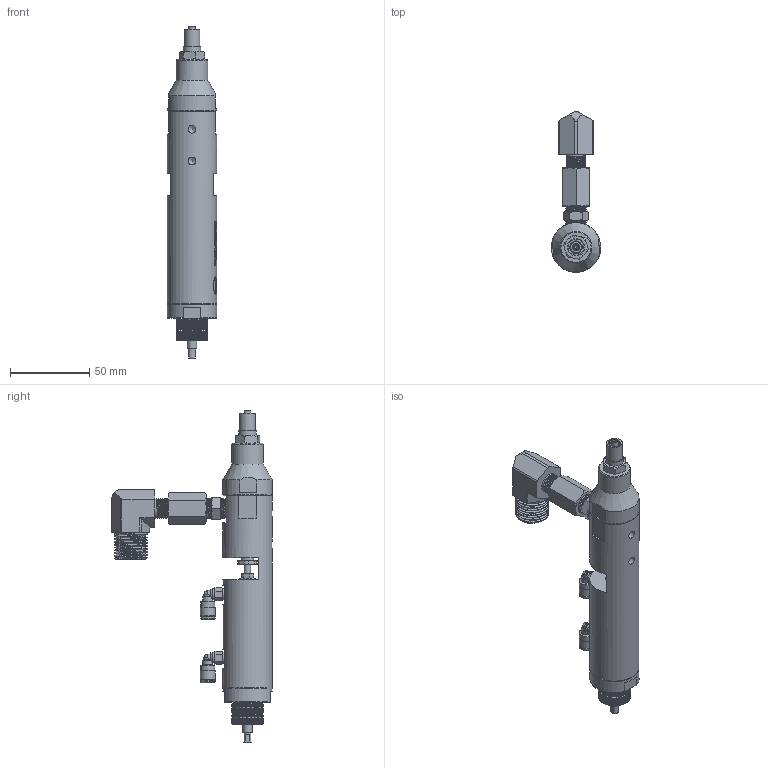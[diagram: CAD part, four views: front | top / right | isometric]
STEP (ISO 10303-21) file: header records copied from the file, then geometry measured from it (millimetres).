
FILE_DESCRIPTION(/* description */ (''),/* implementation_level */ '2;1');
FILE_NAME(/* name */ 'A:\1960414 EQ VA26 Dispense Valve 50 Bar.stp',/* time_stamp */ '2014-10-13T10:02:42-04:00',/* author */ ('patch'),/* organization */ (''),/* preprocessor_version */ 'ST-DEVELOPER v15.6',/* originating_system */ 'Autodesk Inventor 2015',/* authorisation */ '');
FILE_SCHEMA (('AUTOMOTIVE_DESIGN { 1 0 10303 214 3 1 1 }'));
Length unit declared in the file: inch
Products named in the file (12): 8904525 Cylinder Housing Artwork; 8904527 Front Head; 8901737 Luer Lock to 0.25-19 BSPT; 8904527 Rear Head; 8902761 Male Elbow 0.25-19 BSPT x 0.5-14 BSPP With JIS Internal 60 De
gree Cone; 8902260 Male Elbow 4mm Tube x M5; 8904527 Piston Thread; 8904527 Stroke Lock Nut; 8904527 Male Hex Nipple 0.25-19 BSPT; 8904527 Hex Coupling Rc 0.25; 8904527 EQ VA26 Dispense Valve; 1960414 EQ VA26 Dispense Valve 50 Bar
Assembly tree (13 placements, depth 3):
  1960414 EQ VA26 Dispense Valve 50 Bar
    8904527 EQ VA26 Dispense Valve
      8904525 Cylinder Housing Artwork
      8904527 Front Head
      8901737 Luer Lock to 0.25-19 BSPT
      8904527 Rear Head
      8902761 Male Elbow 0.25-19 BSPT x 0.5-14 BSPP With JIS Internal 60 De
gree Cone
      8902260 Male Elbow 4mm Tube x M5  x2
      8904527 Piston Thread
      8904527 Stroke Lock Nut  x2
      8904527 Male Hex Nipple 0.25-19 BSPT
      8904527 Hex Coupling Rc 0.25
Bounding box: 30.99 x 100.87 x 208.99 mm (x, y, z)
Volume: 130785.2 mm3; surface area: 42518.2 mm2
Topology: 12 solids, 12 shells, 2700 faces, 7523 edges, 4984 vertices
Faces by surface type: bspline 1165, plane 984, cylinder 430, cone 108, torus 11, sphere 2
Full cylindrical faces by diameter (mm): 2.4 x1, 2.5 x2, 3.988 x1, 4 x2, 4.14 x2, 4.4 x2, 4.928 x2, 5 x3, 5.182 x1, 5.188 x2, 5.4 x1, 5.85 x1, 6.4 x2, 7 x4, 8 x1, 8.001 x1, 8.9 x2, 9.1 x2, 9.3 x2, 10 x1, 10.49 x2, 10.998 x1, 11 x1, 11.45 x1, 12 x2, 19.99 x1, 20.8 x8, 30.988 x3
Entity records: 250961 total; most frequent: CARTESIAN_POINT 201399, ORIENTED_EDGE 12348, EDGE_CURVE 6173, DIRECTION 5868, VERTEX_POINT 4127, B_SPLINE_CURVE_WITH_KNOTS 2639, EDGE_LOOP 2488, LINE 2294
